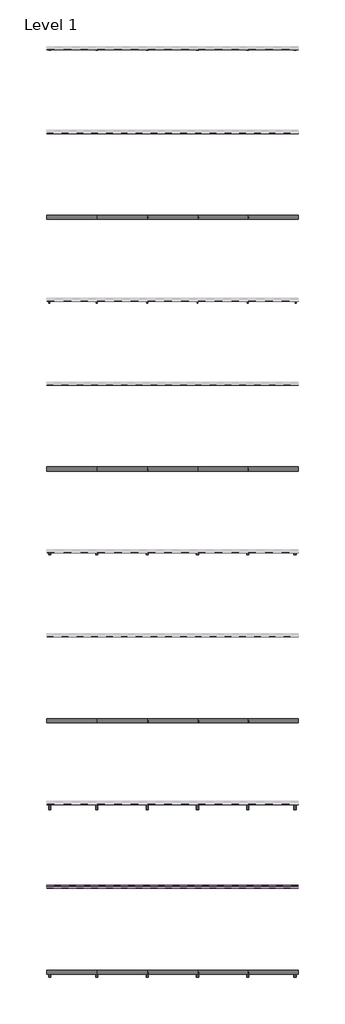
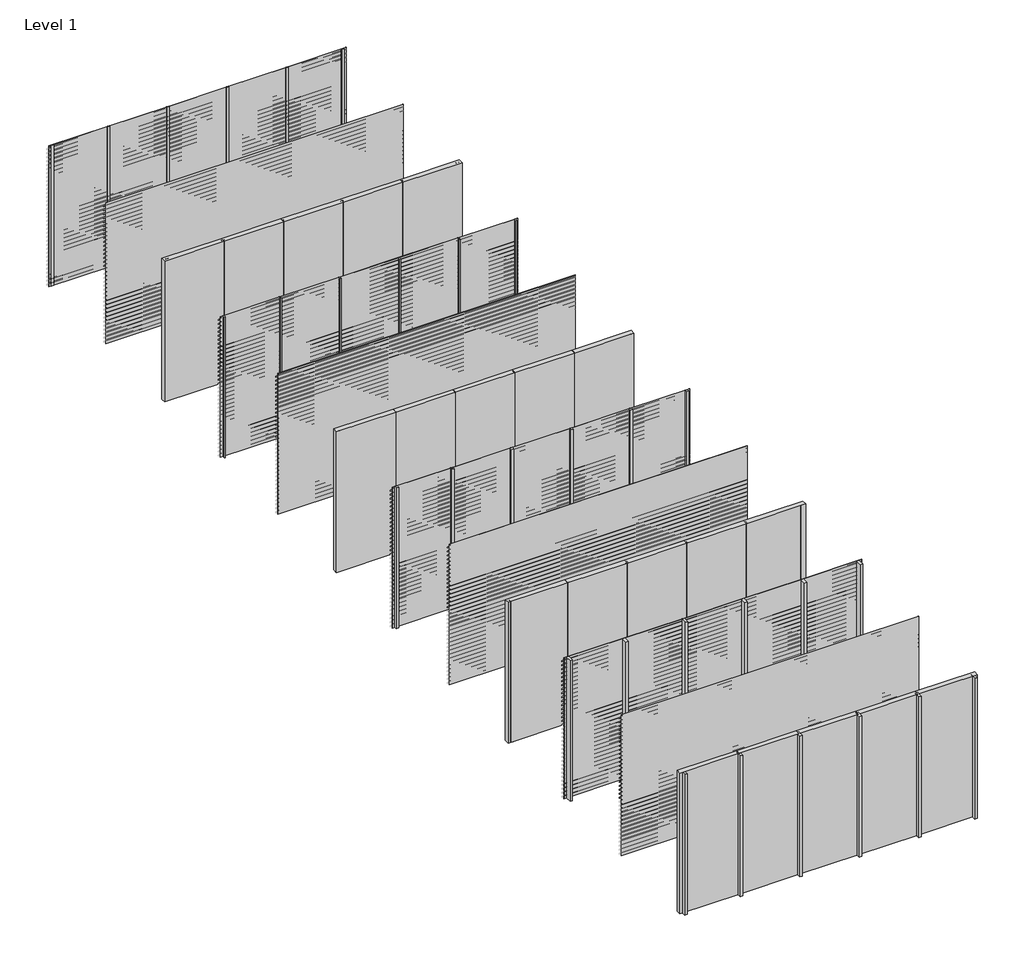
# One storey, part 1 of 10: 48 members, 44 plates, 21 proxies.
"""IFC4 building model written with IfcOpenShell, lengths in millimetres."""

from ifc_helpers import new_model, si_unit, frame, origin, origin_with_axes, place, context, project, spatial, polyline, outline, extrude, transform, mapped, element, save
from components import rectangular_mullion_bbbcbd30, rectangular_mullion_f8d4a220, rectangular_mullion_81aaf6fe, rectangular_mullion_6e08dc26, rectangular_mullion_75c52e10, rectangular_mullion_40295cf1, rectangular_mullion_7f158cb3, rectangular_mullion_66519e13, rectangular_mullion_5829b51c, rectangular_mullion_3b5b8a15, rectangular_mullion_81543344, rectangular_mullion_041a21c4, empty_system_panel_empty_50a928b3, empty_system_panel_empty_6b1ffbf5

model = new_model("IFC4")

# Units and contexts
model_context = context("Model", 3, world=origin())
ifc_project = project(units=[si_unit("LENGTHUNIT", "METRE", prefix="MILLI")], contexts=[model_context])

# Site, building, storey
site = spatial("IfcSite", under=ifc_project)
building = spatial("IfcBuilding", under=site)
storey = spatial("IfcBuildingStorey", under=building, Name="Level 1", Elevation=0.0)

# Proxies
placement = place(None, origin())
element("IfcBuildingElementProxy", 1, Name="Wall Sweeps", at=placement, inside=storey, context=model_context, shape_type="SweptSolid", body=[
    extrude(outline(polyline([(-19995.0, 2975.0), (-19995.0, 2962.0), (-19927.0, 2894.0), (-19927.0, 2876.0), (-19997.0, 2946.0), (-19997.0, 2975.0), (-19995.0, 2975.0)])), frame((0.0, 0.0, 0.0), z_axis=(1.0, 0.0, 0.0), x_axis=(0.0, 1.0, 0.0)), (0.0, 0.0, 1.0), 6000.0),
])
element("IfcBuildingElementProxy", 2, Name="Wall Sweeps", at=placement, inside=storey, context=model_context, shape_type="SweptSolid", body=[
    extrude(outline(polyline([(-19995.0, 2890.0), (-19995.0, 2877.0), (-19927.0, 2809.0), (-19927.0, 2791.0), (-19997.0, 2861.0), (-19997.0, 2890.0), (-19995.0, 2890.0)])), frame((0.0, 0.0, 0.0), z_axis=(1.0, 0.0, 0.0), x_axis=(0.0, 1.0, 0.0)), (0.0, 0.0, 1.0), 6000.0),
])
element("IfcBuildingElementProxy", 3, Name="Wall Sweeps", at=placement, inside=storey, context=model_context, shape_type="SweptSolid", body=[
    extrude(outline(polyline([(-19995.0, 2805.0), (-19995.0, 2792.0), (-19927.0, 2724.0), (-19927.0, 2706.0), (-19997.0, 2776.0), (-19997.0, 2805.0), (-19995.0, 2805.0)])), frame((0.0, 0.0, 0.0), z_axis=(1.0, 0.0, 0.0), x_axis=(0.0, 1.0, 0.0)), (0.0, 0.0, 1.0), 6000.0),
])
element("IfcBuildingElementProxy", 4, Name="Wall Sweeps", at=placement, inside=storey, context=model_context, shape_type="SweptSolid", body=[
    extrude(outline(polyline([(-19995.0, 2720.0), (-19995.0, 2707.0), (-19927.0, 2639.0), (-19927.0, 2621.0), (-19997.0, 2691.0), (-19997.0, 2720.0), (-19995.0, 2720.0)])), frame((0.0, 0.0, 0.0), z_axis=(1.0, 0.0, 0.0), x_axis=(0.0, 1.0, 0.0)), (0.0, 0.0, 1.0), 6000.0),
])
element("IfcBuildingElementProxy", 5, Name="Wall Sweeps", at=placement, inside=storey, context=model_context, shape_type="SweptSolid", body=[
    extrude(outline(polyline([(-19995.0, 2635.0), (-19995.0, 2622.0), (-19927.0, 2554.0), (-19927.0, 2536.0), (-19997.0, 2606.0), (-19997.0, 2635.0), (-19995.0, 2635.0)])), frame((0.0, 0.0, 0.0), z_axis=(1.0, 0.0, 0.0), x_axis=(0.0, 1.0, 0.0)), (0.0, 0.0, 1.0), 6000.0),
])
element("IfcBuildingElementProxy", 6, Name="Wall Sweeps", at=placement, inside=storey, context=model_context, shape_type="SweptSolid", body=[
    extrude(outline(polyline([(-19995.0, 2550.0), (-19995.0, 2537.0), (-19927.0, 2469.0), (-19927.0, 2451.0), (-19997.0, 2521.0), (-19997.0, 2550.0), (-19995.0, 2550.0)])), frame((0.0, 0.0, 0.0), z_axis=(1.0, 0.0, 0.0), x_axis=(0.0, 1.0, 0.0)), (0.0, 0.0, 1.0), 6000.0),
])
element("IfcBuildingElementProxy", 7, Name="Wall Sweeps", at=placement, inside=storey, context=model_context, shape_type="SweptSolid", body=[
    extrude(outline(polyline([(-19995.0, 2465.0), (-19995.0, 2452.0), (-19927.0, 2384.0), (-19927.0, 2366.0), (-19997.0, 2436.0), (-19997.0, 2465.0), (-19995.0, 2465.0)])), frame((0.0, 0.0, 0.0), z_axis=(1.0, 0.0, 0.0), x_axis=(0.0, 1.0, 0.0)), (0.0, 0.0, 1.0), 6000.0),
])
element("IfcBuildingElementProxy", 8, Name="Wall Sweeps", at=placement, inside=storey, context=model_context, shape_type="SweptSolid", body=[
    extrude(outline(polyline([(-19995.0, 2380.0), (-19995.0, 2367.0), (-19927.0, 2299.0), (-19927.0, 2281.0), (-19997.0, 2351.0), (-19997.0, 2380.0), (-19995.0, 2380.0)])), frame((0.0, 0.0, 0.0), z_axis=(1.0, 0.0, 0.0), x_axis=(0.0, 1.0, 0.0)), (0.0, 0.0, 1.0), 6000.0),
])
element("IfcBuildingElementProxy", 9, Name="Wall Sweeps", at=placement, inside=storey, context=model_context, shape_type="SweptSolid", body=[
    extrude(outline(polyline([(-19995.0, 2295.0), (-19995.0, 2282.0), (-19927.0, 2214.0), (-19927.0, 2196.0), (-19997.0, 2266.0), (-19997.0, 2295.0), (-19995.0, 2295.0)])), frame((0.0, 0.0, 0.0), z_axis=(1.0, 0.0, 0.0), x_axis=(0.0, 1.0, 0.0)), (0.0, 0.0, 1.0), 6000.0),
])
element("IfcBuildingElementProxy", 10, Name="Wall Sweeps", at=placement, inside=storey, context=model_context, shape_type="SweptSolid", body=[
    extrude(outline(polyline([(-19995.0, 2210.0), (-19995.0, 2197.0), (-19927.0, 2129.0), (-19927.0, 2111.0), (-19997.0, 2181.0), (-19997.0, 2210.0), (-19995.0, 2210.0)])), frame((0.0, 0.0, 0.0), z_axis=(1.0, 0.0, 0.0), x_axis=(0.0, 1.0, 0.0)), (0.0, 0.0, 1.0), 6000.0),
])
element("IfcBuildingElementProxy", 11, Name="Wall Sweeps", at=placement, inside=storey, context=model_context, shape_type="SweptSolid", body=[
    extrude(outline(polyline([(-19995.0, 2125.0), (-19995.0, 2112.0), (-19927.0, 2044.0), (-19927.0, 2026.0), (-19997.0, 2096.0), (-19997.0, 2125.0), (-19995.0, 2125.0)])), frame((0.0, 0.0, 0.0), z_axis=(1.0, 0.0, 0.0), x_axis=(0.0, 1.0, 0.0)), (0.0, 0.0, 1.0), 6000.0),
])
element("IfcBuildingElementProxy", 12, Name="Wall Sweeps", at=placement, inside=storey, context=model_context, shape_type="SweptSolid", body=[
    extrude(outline(polyline([(-19995.0, 2040.0), (-19995.0, 2027.0), (-19927.0, 1959.0), (-19927.0, 1941.0), (-19997.0, 2011.0), (-19997.0, 2040.0), (-19995.0, 2040.0)])), frame((0.0, 0.0, 0.0), z_axis=(1.0, 0.0, 0.0), x_axis=(0.0, 1.0, 0.0)), (0.0, 0.0, 1.0), 6000.0),
])
element("IfcBuildingElementProxy", 13, Name="Wall Sweeps", at=placement, inside=storey, context=model_context, shape_type="SweptSolid", body=[
    extrude(outline(polyline([(-19995.0, 1955.0), (-19995.0, 1942.0), (-19927.0, 1874.0), (-19927.0, 1856.0), (-19997.0, 1926.0), (-19997.0, 1955.0), (-19995.0, 1955.0)])), frame((0.0, 0.0, 0.0), z_axis=(1.0, 0.0, 0.0), x_axis=(0.0, 1.0, 0.0)), (0.0, 0.0, 1.0), 6000.0),
])
element("IfcBuildingElementProxy", 14, Name="Wall Sweeps", at=placement, inside=storey, context=model_context, shape_type="SweptSolid", body=[
    extrude(outline(polyline([(-19995.0, 1870.0), (-19995.0, 1857.0), (-19927.0, 1789.0), (-19927.0, 1771.0), (-19997.0, 1841.0), (-19997.0, 1870.0), (-19995.0, 1870.0)])), frame((0.0, 0.0, 0.0), z_axis=(1.0, 0.0, 0.0), x_axis=(0.0, 1.0, 0.0)), (0.0, 0.0, 1.0), 6000.0),
])
element("IfcBuildingElementProxy", 15, Name="Wall Sweeps", at=placement, inside=storey, context=model_context, shape_type="SweptSolid", body=[
    extrude(outline(polyline([(-19995.0, 1785.0), (-19995.0, 1772.0), (-19927.0, 1704.0), (-19927.0, 1686.0), (-19997.0, 1756.0), (-19997.0, 1785.0), (-19995.0, 1785.0)])), frame((0.0, 0.0, 0.0), z_axis=(1.0, 0.0, 0.0), x_axis=(0.0, 1.0, 0.0)), (0.0, 0.0, 1.0), 6000.0),
])
element("IfcBuildingElementProxy", 16, Name="Wall Sweeps", at=placement, inside=storey, context=model_context, shape_type="SweptSolid", body=[
    extrude(outline(polyline([(-19995.0, 1700.0), (-19995.0, 1687.0), (-19927.0, 1619.0), (-19927.0, 1601.0), (-19997.0, 1671.0), (-19997.0, 1700.0), (-19995.0, 1700.0)])), frame((0.0, 0.0, 0.0), z_axis=(1.0, 0.0, 0.0), x_axis=(0.0, 1.0, 0.0)), (0.0, 0.0, 1.0), 6000.0),
])
element("IfcBuildingElementProxy", 17, Name="Wall Sweeps", at=placement, inside=storey, context=model_context, shape_type="SweptSolid", body=[
    extrude(outline(polyline([(-19995.0, 1615.0), (-19995.0, 1602.0), (-19927.0, 1534.0), (-19927.0, 1516.0), (-19997.0, 1586.0), (-19997.0, 1615.0), (-19995.0, 1615.0)])), frame((0.0, 0.0, 0.0), z_axis=(1.0, 0.0, 0.0), x_axis=(0.0, 1.0, 0.0)), (0.0, 0.0, 1.0), 6000.0),
])
element("IfcBuildingElementProxy", 18, Name="Wall Sweeps", at=placement, inside=storey, context=model_context, shape_type="SweptSolid", body=[
    extrude(outline(polyline([(-19995.0, 1530.0), (-19995.0, 1517.0), (-19927.0, 1449.0), (-19927.0, 1431.0), (-19997.0, 1501.0), (-19997.0, 1530.0), (-19995.0, 1530.0)])), frame((0.0, 0.0, 0.0), z_axis=(1.0, 0.0, 0.0), x_axis=(0.0, 1.0, 0.0)), (0.0, 0.0, 1.0), 6000.0),
])
element("IfcBuildingElementProxy", 19, Name="Wall Sweeps", at=placement, inside=storey, context=model_context, shape_type="SweptSolid", body=[
    extrude(outline(polyline([(-19995.0, 1445.0), (-19995.0, 1432.0), (-19927.0, 1364.0), (-19927.0, 1346.0), (-19997.0, 1416.0), (-19997.0, 1445.0), (-19995.0, 1445.0)])), frame((0.0, 0.0, 0.0), z_axis=(1.0, 0.0, 0.0), x_axis=(0.0, 1.0, 0.0)), (0.0, 0.0, 1.0), 6000.0),
])
element("IfcBuildingElementProxy", 20, Name="Wall Sweeps", at=placement, inside=storey, context=model_context, shape_type="SweptSolid", body=[
    extrude(outline(polyline([(-19995.0, 1360.0), (-19995.0, 1347.0), (-19927.0, 1279.0), (-19927.0, 1261.0), (-19997.0, 1331.0), (-19997.0, 1360.0), (-19995.0, 1360.0)])), frame((0.0, 0.0, 0.0), z_axis=(1.0, 0.0, 0.0), x_axis=(0.0, 1.0, 0.0)), (0.0, 0.0, 1.0), 6000.0),
])
element("IfcBuildingElementProxy", 21, Name="Wall Sweeps", at=placement, inside=storey, context=model_context, shape_type="SweptSolid", body=[
    extrude(outline(polyline([(-19995.0, 1275.0), (-19995.0, 1262.0), (-19927.0, 1194.0), (-19927.0, 1176.0), (-19997.0, 1246.0), (-19997.0, 1275.0), (-19995.0, 1275.0)])), frame((0.0, 0.0, 0.0), z_axis=(1.0, 0.0, 0.0), x_axis=(0.0, 1.0, 0.0)), (0.0, 0.0, 1.0), 6000.0),
])

# Members
rectangular_mullion_shape = rectangular_mullion_bbbcbd30(model_context)
element("IfcMember", 22, ObjectType="Rectangular Mullion : RSen_21_CWM_support profile - 50x12 - left_gen_duco projects", at=placement, inside=storey, context=model_context, shape_type="MappedRepresentation", body=[
    mapped(rectangular_mullion_shape, transform((0.0, 0.0, 0.0), x_axis=(-1.0, 0.0, 0.0), y_axis=(0.0, 1.0, 0.0), z_axis=(0.0, 0.0, -1.0))),
])
element("IfcMember", 23, ObjectType="Rectangular Mullion : RSen_21_CWM_support profile - 50x12 - left_gen_duco projects", at=placement, inside=storey, context=model_context, shape_type="MappedRepresentation", body=[
    mapped(rectangular_mullion_shape, transform((0.0, -4000.0, 0.0), x_axis=(-1.0, 0.0, 0.0), y_axis=(0.0, 1.0, 0.0), z_axis=(0.0, 0.0, -1.0))),
])
rectangular_mullion_2_shape = rectangular_mullion_f8d4a220(model_context)
element("IfcMember", 24, ObjectType="Rectangular Mullion : RSen_21_CWM_support profile - 50x12 - right_gen_duco projects", at=placement, inside=storey, context=model_context, shape_type="MappedRepresentation", body=[
    mapped(rectangular_mullion_2_shape, transform((6000.0, 0.0, 3000.0), x_axis=(1.0, 0.0, 0.0), y_axis=(0.0, 1.0, 0.0), z_axis=(0.0, 0.0, 1.0))),
])
element("IfcMember", 25, ObjectType="Rectangular Mullion : RSen_21_CWM_support profile - 50x12 - right_gen_duco projects", at=placement, inside=storey, context=model_context, shape_type="MappedRepresentation", body=[
    mapped(rectangular_mullion_2_shape, transform((6000.0, -4000.0, 3000.0), x_axis=(1.0, 0.0, 0.0), y_axis=(0.0, 1.0, 0.0), z_axis=(0.0, 0.0, 1.0))),
])
rectangular_mullion_3_shape = rectangular_mullion_81aaf6fe(model_context)
element("IfcMember", 26, ObjectType="Rectangular Mullion : RSen_21_CWM_support profile - 21x50 Multi - left_gen_duco projects", at=placement, inside=storey, context=model_context, shape_type="MappedRepresentation", body=[
    mapped(rectangular_mullion_3_shape, transform((0.0, -6000.0, 0.0), x_axis=(-1.0, 0.0, 0.0), y_axis=(0.0, 1.0, 0.0), z_axis=(0.0, 0.0, -1.0))),
])
element("IfcMember", 27, ObjectType="Rectangular Mullion : RSen_21_CWM_support profile - 21x50 Multi - left_gen_duco projects", at=placement, inside=storey, context=model_context, shape_type="MappedRepresentation", body=[
    mapped(rectangular_mullion_3_shape, transform((0.0, -10000.0, 0.0), x_axis=(-1.0, 0.0, 0.0), y_axis=(0.0, 1.0, 0.0), z_axis=(0.0, 0.0, -1.0))),
])
rectangular_mullion_4_shape = rectangular_mullion_6e08dc26(model_context)
element("IfcMember", 28, ObjectType="Rectangular Mullion : RSen_21_CWM_support profile - 21x50 Multi - right_gen_duco projects", at=placement, inside=storey, context=model_context, shape_type="MappedRepresentation", body=[
    mapped(rectangular_mullion_4_shape, transform((6000.0, -6000.0, 3000.0), x_axis=(1.0, 0.0, 0.0), y_axis=(0.0, 1.0, 0.0), z_axis=(0.0, 0.0, 1.0))),
])
element("IfcMember", 29, ObjectType="Rectangular Mullion : RSen_21_CWM_support profile - 21x50 Multi - right_gen_duco projects", at=placement, inside=storey, context=model_context, shape_type="MappedRepresentation", body=[
    mapped(rectangular_mullion_4_shape, transform((6000.0, -10000.0, 3000.0), x_axis=(1.0, 0.0, 0.0), y_axis=(0.0, 1.0, 0.0), z_axis=(0.0, 0.0, 1.0))),
])
rectangular_mullion_5_shape = rectangular_mullion_75c52e10(model_context)
element("IfcMember", 30, ObjectType="Rectangular Mullion : RSen_21_CWM_support profile - 50x50 - left_gen_duco projects", at=placement, inside=storey, context=model_context, shape_type="MappedRepresentation", body=[
    mapped(rectangular_mullion_5_shape, transform((0.0, -12000.0, 0.0), x_axis=(-1.0, 0.0, 0.0), y_axis=(0.0, 1.0, 0.0), z_axis=(0.0, 0.0, -1.0))),
])
element("IfcMember", 31, ObjectType="Rectangular Mullion : RSen_21_CWM_support profile - 50x50 - left_gen_duco projects", at=placement, inside=storey, context=model_context, shape_type="MappedRepresentation", body=[
    mapped(rectangular_mullion_5_shape, transform((0.0, -16000.0, 0.0), x_axis=(-1.0, 0.0, 0.0), y_axis=(0.0, 1.0, 0.0), z_axis=(0.0, 0.0, -1.0))),
])
rectangular_mullion_6_shape = rectangular_mullion_40295cf1(model_context)
element("IfcMember", 32, ObjectType="Rectangular Mullion : RSen_21_CWM_support profile - 50x50 - right_gen_duco projects", at=placement, inside=storey, context=model_context, shape_type="MappedRepresentation", body=[
    mapped(rectangular_mullion_6_shape, transform((6000.0, -12000.0, 3000.0), x_axis=(1.0, 0.0, 0.0), y_axis=(0.0, 1.0, 0.0), z_axis=(0.0, 0.0, 1.0))),
])
element("IfcMember", 33, ObjectType="Rectangular Mullion : RSen_21_CWM_support profile - 50x50 - right_gen_duco projects", at=placement, inside=storey, context=model_context, shape_type="MappedRepresentation", body=[
    mapped(rectangular_mullion_6_shape, transform((6000.0, -16000.0, 3000.0), x_axis=(1.0, 0.0, 0.0), y_axis=(0.0, 1.0, 0.0), z_axis=(0.0, 0.0, 1.0))),
])
rectangular_mullion_7_shape = rectangular_mullion_7f158cb3(model_context)
element("IfcMember", 34, ObjectType="Rectangular Mullion : RSen_21_CWM_support profile - 50x12_gen_duco projects", at=placement, inside=storey, context=model_context, shape_type="MappedRepresentation", body=[
    mapped(rectangular_mullion_7_shape, transform((4800.0, 0.0, 0.0), x_axis=(-1.0, 0.0, 0.0), y_axis=(0.0, 1.0, 0.0), z_axis=(0.0, 0.0, -1.0))),
])
element("IfcMember", 35, ObjectType="Rectangular Mullion : RSen_21_CWM_support profile - 50x12_gen_duco projects", at=placement, inside=storey, context=model_context, shape_type="MappedRepresentation", body=[
    mapped(rectangular_mullion_7_shape, transform((3600.0, 0.0, 0.0), x_axis=(-1.0, 0.0, 0.0), y_axis=(0.0, 1.0, 0.0), z_axis=(0.0, 0.0, -1.0))),
])
element("IfcMember", 36, ObjectType="Rectangular Mullion : RSen_21_CWM_support profile - 50x12_gen_duco projects", at=placement, inside=storey, context=model_context, shape_type="MappedRepresentation", body=[
    mapped(rectangular_mullion_7_shape, transform((2400.0, 0.0, 0.0), x_axis=(-1.0, 0.0, 0.0), y_axis=(0.0, 1.0, 0.0), z_axis=(0.0, 0.0, -1.0))),
])
element("IfcMember", 37, ObjectType="Rectangular Mullion : RSen_21_CWM_support profile - 50x12_gen_duco projects", at=placement, inside=storey, context=model_context, shape_type="MappedRepresentation", body=[
    mapped(rectangular_mullion_7_shape, transform((1200.0, 0.0, 0.0), x_axis=(-1.0, 0.0, 0.0), y_axis=(0.0, 1.0, 0.0), z_axis=(0.0, 0.0, -1.0))),
])
element("IfcMember", 38, ObjectType="Rectangular Mullion : RSen_21_CWM_support profile - 50x12_gen_duco projects", at=placement, inside=storey, context=model_context, shape_type="MappedRepresentation", body=[
    mapped(rectangular_mullion_7_shape, transform((4800.0, -4000.0, 0.0), x_axis=(-1.0, 0.0, 0.0), y_axis=(0.0, 1.0, 0.0), z_axis=(0.0, 0.0, -1.0))),
])
element("IfcMember", 39, ObjectType="Rectangular Mullion : RSen_21_CWM_support profile - 50x12_gen_duco projects", at=placement, inside=storey, context=model_context, shape_type="MappedRepresentation", body=[
    mapped(rectangular_mullion_7_shape, transform((3600.0, -4000.0, 0.0), x_axis=(-1.0, 0.0, 0.0), y_axis=(0.0, 1.0, 0.0), z_axis=(0.0, 0.0, -1.0))),
])
element("IfcMember", 40, ObjectType="Rectangular Mullion : RSen_21_CWM_support profile - 50x12_gen_duco projects", at=placement, inside=storey, context=model_context, shape_type="MappedRepresentation", body=[
    mapped(rectangular_mullion_7_shape, transform((2400.0, -4000.0, 0.0), x_axis=(-1.0, 0.0, 0.0), y_axis=(0.0, 1.0, 0.0), z_axis=(0.0, 0.0, -1.0))),
])
element("IfcMember", 41, ObjectType="Rectangular Mullion : RSen_21_CWM_support profile - 50x12_gen_duco projects", at=placement, inside=storey, context=model_context, shape_type="MappedRepresentation", body=[
    mapped(rectangular_mullion_7_shape, transform((1200.0, -4000.0, 0.0), x_axis=(-1.0, 0.0, 0.0), y_axis=(0.0, 1.0, 0.0), z_axis=(0.0, 0.0, -1.0))),
])
rectangular_mullion_8_shape = rectangular_mullion_66519e13(model_context)
element("IfcMember", 42, ObjectType="Rectangular Mullion : RSen_21_CWM_support profile - 21x50 Multi_gen_duco projects", at=placement, inside=storey, context=model_context, shape_type="MappedRepresentation", body=[
    mapped(rectangular_mullion_8_shape, transform((4800.0, -6000.0, 0.0), x_axis=(-1.0, 0.0, 0.0), y_axis=(0.0, 1.0, 0.0), z_axis=(0.0, 0.0, -1.0))),
])
element("IfcMember", 43, ObjectType="Rectangular Mullion : RSen_21_CWM_support profile - 21x50 Multi_gen_duco projects", at=placement, inside=storey, context=model_context, shape_type="MappedRepresentation", body=[
    mapped(rectangular_mullion_8_shape, transform((3600.0, -6000.0, 0.0), x_axis=(-1.0, 0.0, 0.0), y_axis=(0.0, 1.0, 0.0), z_axis=(0.0, 0.0, -1.0))),
])
element("IfcMember", 44, ObjectType="Rectangular Mullion : RSen_21_CWM_support profile - 21x50 Multi_gen_duco projects", at=placement, inside=storey, context=model_context, shape_type="MappedRepresentation", body=[
    mapped(rectangular_mullion_8_shape, transform((2400.0, -6000.0, 0.0), x_axis=(-1.0, 0.0, 0.0), y_axis=(0.0, 1.0, 0.0), z_axis=(0.0, 0.0, -1.0))),
])
element("IfcMember", 45, ObjectType="Rectangular Mullion : RSen_21_CWM_support profile - 21x50 Multi_gen_duco projects", at=placement, inside=storey, context=model_context, shape_type="MappedRepresentation", body=[
    mapped(rectangular_mullion_8_shape, transform((1200.0, -6000.0, 0.0), x_axis=(-1.0, 0.0, 0.0), y_axis=(0.0, 1.0, 0.0), z_axis=(0.0, 0.0, -1.0))),
])
element("IfcMember", 46, ObjectType="Rectangular Mullion : RSen_21_CWM_support profile - 21x50 Multi_gen_duco projects", at=placement, inside=storey, context=model_context, shape_type="MappedRepresentation", body=[
    mapped(rectangular_mullion_8_shape, transform((4800.0, -10000.0, 0.0), x_axis=(-1.0, 0.0, 0.0), y_axis=(0.0, 1.0, 0.0), z_axis=(0.0, 0.0, -1.0))),
])
element("IfcMember", 47, ObjectType="Rectangular Mullion : RSen_21_CWM_support profile - 21x50 Multi_gen_duco projects", at=placement, inside=storey, context=model_context, shape_type="MappedRepresentation", body=[
    mapped(rectangular_mullion_8_shape, transform((3600.0, -10000.0, 0.0), x_axis=(-1.0, 0.0, 0.0), y_axis=(0.0, 1.0, 0.0), z_axis=(0.0, 0.0, -1.0))),
])
element("IfcMember", 48, ObjectType="Rectangular Mullion : RSen_21_CWM_support profile - 21x50 Multi_gen_duco projects", at=placement, inside=storey, context=model_context, shape_type="MappedRepresentation", body=[
    mapped(rectangular_mullion_8_shape, transform((2400.0, -10000.0, 0.0), x_axis=(-1.0, 0.0, 0.0), y_axis=(0.0, 1.0, 0.0), z_axis=(0.0, 0.0, -1.0))),
])
element("IfcMember", 49, ObjectType="Rectangular Mullion : RSen_21_CWM_support profile - 21x50 Multi_gen_duco projects", at=placement, inside=storey, context=model_context, shape_type="MappedRepresentation", body=[
    mapped(rectangular_mullion_8_shape, transform((1200.0, -10000.0, 0.0), x_axis=(-1.0, 0.0, 0.0), y_axis=(0.0, 1.0, 0.0), z_axis=(0.0, 0.0, -1.0))),
])
rectangular_mullion_9_shape = rectangular_mullion_5829b51c(model_context)
element("IfcMember", 50, ObjectType="Rectangular Mullion : RSen_21_CWM_support profile - 50x50_gen_duco projects", at=placement, inside=storey, context=model_context, shape_type="MappedRepresentation", body=[
    mapped(rectangular_mullion_9_shape, transform((4800.0, -12000.0, 0.0), x_axis=(-1.0, 0.0, 0.0), y_axis=(0.0, 1.0, 0.0), z_axis=(0.0, 0.0, -1.0))),
])
element("IfcMember", 51, ObjectType="Rectangular Mullion : RSen_21_CWM_support profile - 50x50_gen_duco projects", at=placement, inside=storey, context=model_context, shape_type="MappedRepresentation", body=[
    mapped(rectangular_mullion_9_shape, transform((3600.0, -12000.0, 0.0), x_axis=(-1.0, 0.0, 0.0), y_axis=(0.0, 1.0, 0.0), z_axis=(0.0, 0.0, -1.0))),
])
element("IfcMember", 52, ObjectType="Rectangular Mullion : RSen_21_CWM_support profile - 50x50_gen_duco projects", at=placement, inside=storey, context=model_context, shape_type="MappedRepresentation", body=[
    mapped(rectangular_mullion_9_shape, transform((2400.0, -12000.0, 0.0), x_axis=(-1.0, 0.0, 0.0), y_axis=(0.0, 1.0, 0.0), z_axis=(0.0, 0.0, -1.0))),
])
element("IfcMember", 53, ObjectType="Rectangular Mullion : RSen_21_CWM_support profile - 50x50_gen_duco projects", at=placement, inside=storey, context=model_context, shape_type="MappedRepresentation", body=[
    mapped(rectangular_mullion_9_shape, transform((1200.0, -12000.0, 0.0), x_axis=(-1.0, 0.0, 0.0), y_axis=(0.0, 1.0, 0.0), z_axis=(0.0, 0.0, -1.0))),
])
element("IfcMember", 54, ObjectType="Rectangular Mullion : RSen_21_CWM_support profile - 50x50_gen_duco projects", at=placement, inside=storey, context=model_context, shape_type="MappedRepresentation", body=[
    mapped(rectangular_mullion_9_shape, transform((4800.0, -16000.0, 0.0), x_axis=(-1.0, 0.0, 0.0), y_axis=(0.0, 1.0, 0.0), z_axis=(0.0, 0.0, -1.0))),
])
element("IfcMember", 55, ObjectType="Rectangular Mullion : RSen_21_CWM_support profile - 50x50_gen_duco projects", at=placement, inside=storey, context=model_context, shape_type="MappedRepresentation", body=[
    mapped(rectangular_mullion_9_shape, transform((3600.0, -16000.0, 0.0), x_axis=(-1.0, 0.0, 0.0), y_axis=(0.0, 1.0, 0.0), z_axis=(0.0, 0.0, -1.0))),
])
element("IfcMember", 56, ObjectType="Rectangular Mullion : RSen_21_CWM_support profile - 50x50_gen_duco projects", at=placement, inside=storey, context=model_context, shape_type="MappedRepresentation", body=[
    mapped(rectangular_mullion_9_shape, transform((2400.0, -16000.0, 0.0), x_axis=(-1.0, 0.0, 0.0), y_axis=(0.0, 1.0, 0.0), z_axis=(0.0, 0.0, -1.0))),
])
element("IfcMember", 57, ObjectType="Rectangular Mullion : RSen_21_CWM_support profile - 50x50_gen_duco projects", at=placement, inside=storey, context=model_context, shape_type="MappedRepresentation", body=[
    mapped(rectangular_mullion_9_shape, transform((1200.0, -16000.0, 0.0), x_axis=(-1.0, 0.0, 0.0), y_axis=(0.0, 1.0, 0.0), z_axis=(0.0, 0.0, -1.0))),
])
rectangular_mullion_10_shape = rectangular_mullion_3b5b8a15(model_context)
element("IfcMember", 58, ObjectType="Rectangular Mullion : RSen_21_CWM_support profile - 50x125_gen_duco projects", at=placement, inside=storey, context=model_context, shape_type="MappedRepresentation", body=[
    mapped(rectangular_mullion_10_shape, transform((1200.0000002, -18000.0, 0.0), x_axis=(1.0, 0.0, 0.0), y_axis=(0.0, -1.0, 0.0), z_axis=(0.0, 0.0, -1.0))),
])
element("IfcMember", 59, ObjectType="Rectangular Mullion : RSen_21_CWM_support profile - 50x125_gen_duco projects", at=placement, inside=storey, context=model_context, shape_type="MappedRepresentation", body=[
    mapped(rectangular_mullion_10_shape, transform((2400.0000001, -18000.0, 0.0), x_axis=(1.0, 0.0, 0.0), y_axis=(0.0, -1.0, 0.0), z_axis=(0.0, 0.0, -1.0))),
])
element("IfcMember", 60, ObjectType="Rectangular Mullion : RSen_21_CWM_support profile - 50x125_gen_duco projects", at=placement, inside=storey, context=model_context, shape_type="MappedRepresentation", body=[
    mapped(rectangular_mullion_10_shape, transform((3599.9999999, -18000.0, 0.0), x_axis=(1.0, 0.0, 0.0), y_axis=(0.0, -1.0, 0.0), z_axis=(0.0, 0.0, -1.0))),
])
element("IfcMember", 61, ObjectType="Rectangular Mullion : RSen_21_CWM_support profile - 50x125_gen_duco projects", at=placement, inside=storey, context=model_context, shape_type="MappedRepresentation", body=[
    mapped(rectangular_mullion_10_shape, transform((4799.9999998, -18000.0, 0.0), x_axis=(1.0, 0.0, 0.0), y_axis=(0.0, -1.0, 0.0), z_axis=(0.0, 0.0, -1.0))),
])
element("IfcMember", 62, ObjectType="Rectangular Mullion : RSen_21_CWM_support profile - 50x125_gen_duco projects", at=placement, inside=storey, context=model_context, shape_type="MappedRepresentation", body=[
    mapped(rectangular_mullion_10_shape, transform((1200.0000002, -22000.0, 0.0), x_axis=(1.0, 0.0, 0.0), y_axis=(0.0, -1.0, 0.0), z_axis=(0.0, 0.0, -1.0))),
])
element("IfcMember", 63, ObjectType="Rectangular Mullion : RSen_21_CWM_support profile - 50x125_gen_duco projects", at=placement, inside=storey, context=model_context, shape_type="MappedRepresentation", body=[
    mapped(rectangular_mullion_10_shape, transform((2400.0000001, -22000.0, 0.0), x_axis=(1.0, 0.0, 0.0), y_axis=(0.0, -1.0, 0.0), z_axis=(0.0, 0.0, -1.0))),
])
element("IfcMember", 64, ObjectType="Rectangular Mullion : RSen_21_CWM_support profile - 50x125_gen_duco projects", at=placement, inside=storey, context=model_context, shape_type="MappedRepresentation", body=[
    mapped(rectangular_mullion_10_shape, transform((3599.9999999, -22000.0, 0.0), x_axis=(1.0, 0.0, 0.0), y_axis=(0.0, -1.0, 0.0), z_axis=(0.0, 0.0, -1.0))),
])
element("IfcMember", 65, ObjectType="Rectangular Mullion : RSen_21_CWM_support profile - 50x125_gen_duco projects", at=placement, inside=storey, context=model_context, shape_type="MappedRepresentation", body=[
    mapped(rectangular_mullion_10_shape, transform((4799.9999998, -22000.0, 0.0), x_axis=(1.0, 0.0, 0.0), y_axis=(0.0, -1.0, 0.0), z_axis=(0.0, 0.0, -1.0))),
])
rectangular_mullion_11_shape = rectangular_mullion_81543344(model_context)
element("IfcMember", 66, ObjectType="Rectangular Mullion : RSen_21_CWM_support profile - 50x125 - left_gen_duco projects", at=placement, inside=storey, context=model_context, shape_type="MappedRepresentation", body=[
    mapped(rectangular_mullion_11_shape, transform((6000.0, -18000.0, 0.0), x_axis=(1.0, 0.0, 0.0), y_axis=(0.0, -1.0, 0.0), z_axis=(0.0, 0.0, -1.0))),
])
element("IfcMember", 67, ObjectType="Rectangular Mullion : RSen_21_CWM_support profile - 50x125 - left_gen_duco projects", at=placement, inside=storey, context=model_context, shape_type="MappedRepresentation", body=[
    mapped(rectangular_mullion_11_shape, transform((6000.0, -22000.0, 0.0), x_axis=(1.0, 0.0, 0.0), y_axis=(0.0, -1.0, 0.0), z_axis=(0.0, 0.0, -1.0))),
])
rectangular_mullion_12_shape = rectangular_mullion_041a21c4(model_context)
element("IfcMember", 68, ObjectType="Rectangular Mullion : RSen_21_CWM_support profile - 50x125 - right_gen_duco projects", at=placement, inside=storey, context=model_context, shape_type="MappedRepresentation", body=[
    mapped(rectangular_mullion_12_shape, transform((0.0, -18000.0, 3000.0), x_axis=(-1.0, 0.0, 0.0), y_axis=(0.0, -1.0, 0.0), z_axis=(0.0, 0.0, 1.0))),
])
element("IfcMember", 69, ObjectType="Rectangular Mullion : RSen_21_CWM_support profile - 50x125 - right_gen_duco projects", at=placement, inside=storey, context=model_context, shape_type="MappedRepresentation", body=[
    mapped(rectangular_mullion_12_shape, transform((0.0, -22000.0, 3000.0), x_axis=(-1.0, 0.0, 0.0), y_axis=(0.0, -1.0, 0.0), z_axis=(0.0, 0.0, 1.0))),
])

# Plates
element("IfcPlate", 70, ObjectType="RSen_21_WA_louvre blade classic W 70S_gen_duco projects", at=placement, inside=storey, context=model_context, shape_type="SweptSolid", body=[
    extrude(outline(polyline([(0.0, 1.0), (1200.0, 1.0), (1200.0, -1.0), (0.0, -1.0), (0.0, 1.0)])), origin_with_axes(), (0.0, 0.0, 1.0), 3000.0),
])
element("IfcPlate", 71, ObjectType="RSen_21_WA_louvre blade classic W 70S_gen_duco projects", at=placement, inside=storey, context=model_context, shape_type="SweptSolid", body=[
    extrude(outline(polyline([(1200.0, 1.0), (2400.0, 1.0), (2400.0, -1.0), (1200.0, -1.0), (1200.0, 1.0)])), origin_with_axes(), (0.0, 0.0, 1.0), 3000.0),
])
element("IfcPlate", 72, ObjectType="RSen_21_WA_louvre blade classic W 70S_gen_duco projects", at=placement, inside=storey, context=model_context, shape_type="SweptSolid", body=[
    extrude(outline(polyline([(2400.0, 1.0), (3600.0, 1.0), (3600.0, -1.0), (2400.0, -1.0), (2400.0, 1.0)])), origin_with_axes(), (0.0, 0.0, 1.0), 3000.0),
])
element("IfcPlate", 73, ObjectType="RSen_21_WA_louvre blade classic W 70S_gen_duco projects", at=placement, inside=storey, context=model_context, shape_type="SweptSolid", body=[
    extrude(outline(polyline([(3600.0, 1.0), (4800.0, 1.0), (4800.0, -1.0), (3600.0, -1.0), (3600.0, 1.0)])), origin_with_axes(), (0.0, 0.0, 1.0), 3000.0),
])
element("IfcPlate", 74, ObjectType="RSen_21_WA_louvre blade classic W 70S_gen_duco projects", at=placement, inside=storey, context=model_context, shape_type="SweptSolid", body=[
    extrude(outline(polyline([(4800.0, 1.0), (6000.0, 1.0), (6000.0, -1.0), (4800.0, -1.0), (4800.0, 1.0)])), origin_with_axes(), (0.0, 0.0, 1.0), 3000.0),
])
element("IfcPlate", 75, ObjectType="RSen_21_WA_louvre blade classic W 70S_gen_duco projects", at=placement, inside=storey, context=model_context, shape_type="SweptSolid", body=[
    extrude(outline(polyline([(0.0, -1999.0), (6000.0, -1999.0), (6000.0, -2001.0), (0.0, -2001.0), (0.0, -1999.0)])), origin_with_axes(), (0.0, 0.0, 1.0), 3000.0),
])
element("IfcPlate", 76, ObjectType="RSen_21_WA_louvre blade classic W 70S_gen_duco projects", at=placement, inside=storey, context=model_context, shape_type="SweptSolid", body=[
    extrude(outline(polyline([(0.0, -5999.0), (1200.0, -5999.0), (1200.0, -6001.0), (0.0, -6001.0), (0.0, -5999.0)])), origin_with_axes(), (0.0, 0.0, 1.0), 3000.0),
])
element("IfcPlate", 77, ObjectType="RSen_21_WA_louvre blade classic W 70S_gen_duco projects", at=placement, inside=storey, context=model_context, shape_type="SweptSolid", body=[
    extrude(outline(polyline([(1200.0, -5999.0), (2400.0, -5999.0), (2400.0, -6001.0), (1200.0, -6001.0), (1200.0, -5999.0)])), origin_with_axes(), (0.0, 0.0, 1.0), 3000.0),
])
element("IfcPlate", 78, ObjectType="RSen_21_WA_louvre blade classic W 70S_gen_duco projects", at=placement, inside=storey, context=model_context, shape_type="SweptSolid", body=[
    extrude(outline(polyline([(2400.0, -5999.0), (3600.0, -5999.0), (3600.0, -6001.0), (2400.0, -6001.0), (2400.0, -5999.0)])), origin_with_axes(), (0.0, 0.0, 1.0), 3000.0),
])
element("IfcPlate", 79, ObjectType="RSen_21_WA_louvre blade classic W 70S_gen_duco projects", at=placement, inside=storey, context=model_context, shape_type="SweptSolid", body=[
    extrude(outline(polyline([(3600.0, -5999.0), (4800.0, -5999.0), (4800.0, -6001.0), (3600.0, -6001.0), (3600.0, -5999.0)])), origin_with_axes(), (0.0, 0.0, 1.0), 3000.0),
])
element("IfcPlate", 80, ObjectType="RSen_21_WA_louvre blade classic W 70S_gen_duco projects", at=placement, inside=storey, context=model_context, shape_type="SweptSolid", body=[
    extrude(outline(polyline([(4800.0, -5999.0), (6000.0, -5999.0), (6000.0, -6001.0), (4800.0, -6001.0), (4800.0, -5999.0)])), origin_with_axes(), (0.0, 0.0, 1.0), 3000.0),
])
element("IfcPlate", 81, ObjectType="RSen_21_WA_louvre blade classic W 70S_gen_duco projects", at=placement, inside=storey, context=model_context, shape_type="SweptSolid", body=[
    extrude(outline(polyline([(0.0, -7999.0), (6000.0, -7999.0), (6000.0, -8001.0), (0.0, -8001.0), (0.0, -7999.0)])), origin_with_axes(), (0.0, 0.0, 1.0), 3000.0),
])
element("IfcPlate", 82, ObjectType="RSen_21_WA_louvre blade classic W 70S_gen_duco projects", at=placement, inside=storey, context=model_context, shape_type="SweptSolid", body=[
    extrude(outline(polyline([(0.0, -11999.0), (1200.0, -11999.0), (1200.0, -12001.0), (0.0, -12001.0), (0.0, -11999.0)])), origin_with_axes(), (0.0, 0.0, 1.0), 3000.0),
])
element("IfcPlate", 83, ObjectType="RSen_21_WA_louvre blade classic W 70S_gen_duco projects", at=placement, inside=storey, context=model_context, shape_type="SweptSolid", body=[
    extrude(outline(polyline([(1200.0, -11999.0), (2400.0, -11999.0), (2400.0, -12001.0), (1200.0, -12001.0), (1200.0, -11999.0)])), origin_with_axes(), (0.0, 0.0, 1.0), 3000.0),
])
element("IfcPlate", 84, ObjectType="RSen_21_WA_louvre blade classic W 70S_gen_duco projects", at=placement, inside=storey, context=model_context, shape_type="SweptSolid", body=[
    extrude(outline(polyline([(2400.0, -11999.0), (3600.0, -11999.0), (3600.0, -12001.0), (2400.0, -12001.0), (2400.0, -11999.0)])), origin_with_axes(), (0.0, 0.0, 1.0), 3000.0),
])
element("IfcPlate", 85, ObjectType="RSen_21_WA_louvre blade classic W 70S_gen_duco projects", at=placement, inside=storey, context=model_context, shape_type="SweptSolid", body=[
    extrude(outline(polyline([(3600.0, -11999.0), (4800.0, -11999.0), (4800.0, -12001.0), (3600.0, -12001.0), (3600.0, -11999.0)])), origin_with_axes(), (0.0, 0.0, 1.0), 3000.0),
])
element("IfcPlate", 86, ObjectType="RSen_21_WA_louvre blade classic W 70S_gen_duco projects", at=placement, inside=storey, context=model_context, shape_type="SweptSolid", body=[
    extrude(outline(polyline([(4800.0, -11999.0), (6000.0, -11999.0), (6000.0, -12001.0), (4800.0, -12001.0), (4800.0, -11999.0)])), origin_with_axes(), (0.0, 0.0, 1.0), 3000.0),
])
element("IfcPlate", 87, ObjectType="RSen_21_WA_louvre blade classic W 70S_gen_duco projects", at=placement, inside=storey, context=model_context, shape_type="SweptSolid", body=[
    extrude(outline(polyline([(0.0, -13999.0), (6000.0, -13999.0), (6000.0, -14001.0), (0.0, -14001.0), (0.0, -13999.0)])), origin_with_axes(), (0.0, 0.0, 1.0), 3000.0),
])
element("IfcPlate", 88, ObjectType="RSen_21_WA_louvre blade classic W 70S_gen_duco projects", at=placement, inside=storey, context=model_context, shape_type="SweptSolid", body=[
    extrude(outline(polyline([(6000.0, -18001.0), (4799.9999998, -18001.0), (4799.9999998, -17999.0), (6000.0, -17999.0), (6000.0, -18001.0)])), origin_with_axes(), (0.0, 0.0, 1.0), 3000.0),
])
element("IfcPlate", 89, ObjectType="RSen_21_WA_louvre blade classic W 70S_gen_duco projects", at=placement, inside=storey, context=model_context, shape_type="SweptSolid", body=[
    extrude(outline(polyline([(4799.9999998, -18001.0), (3599.9999999, -18001.0), (3599.9999999, -17999.0), (4799.9999998, -17999.0), (4799.9999998, -18001.0)])), origin_with_axes(), (0.0, 0.0, 1.0), 3000.0),
])
element("IfcPlate", 90, ObjectType="RSen_21_WA_louvre blade classic W 70S_gen_duco projects", at=placement, inside=storey, context=model_context, shape_type="SweptSolid", body=[
    extrude(outline(polyline([(3599.9999999, -18001.0), (2400.0000001, -18001.0), (2400.0000001, -17999.0), (3599.9999999, -17999.0), (3599.9999999, -18001.0)])), origin_with_axes(), (0.0, 0.0, 1.0), 3000.0),
])
element("IfcPlate", 91, ObjectType="RSen_21_WA_louvre blade classic W 70S_gen_duco projects", at=placement, inside=storey, context=model_context, shape_type="SweptSolid", body=[
    extrude(outline(polyline([(2400.0000001, -18001.0), (1200.0000002, -18001.0), (1200.0000002, -17999.0), (2400.0000001, -17999.0), (2400.0000001, -18001.0)])), origin_with_axes(), (0.0, 0.0, 1.0), 3000.0),
])
element("IfcPlate", 92, ObjectType="RSen_21_WA_louvre blade classic W 70S_gen_duco projects", at=placement, inside=storey, context=model_context, shape_type="SweptSolid", body=[
    extrude(outline(polyline([(1200.0000002, -18001.0), (0.0, -18001.0), (0.0, -17999.0), (1200.0000002, -17999.0), (1200.0000002, -18001.0)])), origin_with_axes(), (0.0, 0.0, 1.0), 3000.0),
])
element("IfcPlate", 93, ObjectType="RSen_21_WA_louvre blade classic W 70S_gen_duco projects", at=placement, inside=storey, context=model_context, shape_type="SweptSolid", body=[
    extrude(outline(polyline([(6000.0, -20001.0), (0.0, -20001.0), (0.0, -19999.0), (6000.0, -19999.0), (6000.0, -20001.0)])), origin_with_axes(), (0.0, 0.0, 1.0), 3000.0),
])
empty_system_panel_empty_shape = empty_system_panel_empty_50a928b3(model_context)
element("IfcPlate", 94, ObjectType="Empty System Panel : Empty", at=placement, inside=storey, context=model_context, shape_type="MappedRepresentation", body=[
    mapped(empty_system_panel_empty_shape, transform((5400.0, -4000.0, 0.0), x_axis=(-1.0, 0.0, 0.0), y_axis=(0.0, -1.0, 0.0), z_axis=(0.0, 0.0, 1.0))),
])
element("IfcPlate", 95, ObjectType="Empty System Panel : Empty", at=placement, inside=storey, context=model_context, shape_type="MappedRepresentation", body=[
    mapped(empty_system_panel_empty_shape, transform((5400.0, -10000.0, 0.0), x_axis=(-1.0, 0.0, 0.0), y_axis=(0.0, -1.0, 0.0), z_axis=(0.0, 0.0, 1.0))),
])
element("IfcPlate", 96, ObjectType="Empty System Panel : Empty", at=placement, inside=storey, context=model_context, shape_type="MappedRepresentation", body=[
    mapped(empty_system_panel_empty_shape, transform((5400.0, -16000.0, 0.0), x_axis=(-1.0, 0.0, 0.0), y_axis=(0.0, -1.0, 0.0), z_axis=(0.0, 0.0, 1.0))),
])
element("IfcPlate", 97, ObjectType="Empty System Panel : Empty", at=placement, inside=storey, context=model_context, shape_type="MappedRepresentation", body=[
    mapped(empty_system_panel_empty_shape, transform((4200.0, -4000.0, 0.0), x_axis=(-1.0, 0.0, 0.0), y_axis=(0.0, -1.0, 0.0), z_axis=(0.0, 0.0, 1.0))),
])
element("IfcPlate", 98, ObjectType="Empty System Panel : Empty", at=placement, inside=storey, context=model_context, shape_type="MappedRepresentation", body=[
    mapped(empty_system_panel_empty_shape, transform((3000.0, -4000.0, 0.0), x_axis=(-1.0, 0.0, 0.0), y_axis=(0.0, -1.0, 0.0), z_axis=(0.0, 0.0, 1.0))),
])
element("IfcPlate", 99, ObjectType="Empty System Panel : Empty", at=placement, inside=storey, context=model_context, shape_type="MappedRepresentation", body=[
    mapped(empty_system_panel_empty_shape, transform((1800.0, -4000.0, 0.0), x_axis=(-1.0, 0.0, 0.0), y_axis=(0.0, -1.0, 0.0), z_axis=(0.0, 0.0, 1.0))),
])
element("IfcPlate", 100, ObjectType="Empty System Panel : Empty", at=placement, inside=storey, context=model_context, shape_type="MappedRepresentation", body=[
    mapped(empty_system_panel_empty_shape, transform((600.0, -4000.0, 0.0), x_axis=(-1.0, 0.0, 0.0), y_axis=(0.0, -1.0, 0.0), z_axis=(0.0, 0.0, 1.0))),
])
element("IfcPlate", 101, ObjectType="Empty System Panel : Empty", at=placement, inside=storey, context=model_context, shape_type="MappedRepresentation", body=[
    mapped(empty_system_panel_empty_shape, transform((4200.0, -10000.0, 0.0), x_axis=(-1.0, 0.0, 0.0), y_axis=(0.0, -1.0, 0.0), z_axis=(0.0, 0.0, 1.0))),
])
element("IfcPlate", 102, ObjectType="Empty System Panel : Empty", at=placement, inside=storey, context=model_context, shape_type="MappedRepresentation", body=[
    mapped(empty_system_panel_empty_shape, transform((3000.0, -10000.0, 0.0), x_axis=(-1.0, 0.0, 0.0), y_axis=(0.0, -1.0, 0.0), z_axis=(0.0, 0.0, 1.0))),
])
element("IfcPlate", 103, ObjectType="Empty System Panel : Empty", at=placement, inside=storey, context=model_context, shape_type="MappedRepresentation", body=[
    mapped(empty_system_panel_empty_shape, transform((1800.0, -10000.0, 0.0), x_axis=(-1.0, 0.0, 0.0), y_axis=(0.0, -1.0, 0.0), z_axis=(0.0, 0.0, 1.0))),
])
element("IfcPlate", 104, ObjectType="Empty System Panel : Empty", at=placement, inside=storey, context=model_context, shape_type="MappedRepresentation", body=[
    mapped(empty_system_panel_empty_shape, transform((600.0, -10000.0, 0.0), x_axis=(-1.0, 0.0, 0.0), y_axis=(0.0, -1.0, 0.0), z_axis=(0.0, 0.0, 1.0))),
])
element("IfcPlate", 105, ObjectType="Empty System Panel : Empty", at=placement, inside=storey, context=model_context, shape_type="MappedRepresentation", body=[
    mapped(empty_system_panel_empty_shape, transform((4200.0, -16000.0, 0.0), x_axis=(-1.0, 0.0, 0.0), y_axis=(0.0, -1.0, 0.0), z_axis=(0.0, 0.0, 1.0))),
])
element("IfcPlate", 106, ObjectType="Empty System Panel : Empty", at=placement, inside=storey, context=model_context, shape_type="MappedRepresentation", body=[
    mapped(empty_system_panel_empty_shape, transform((3000.0, -16000.0, 0.0), x_axis=(-1.0, 0.0, 0.0), y_axis=(0.0, -1.0, 0.0), z_axis=(0.0, 0.0, 1.0))),
])
element("IfcPlate", 107, ObjectType="Empty System Panel : Empty", at=placement, inside=storey, context=model_context, shape_type="MappedRepresentation", body=[
    mapped(empty_system_panel_empty_shape, transform((1800.0, -16000.0, 0.0), x_axis=(-1.0, 0.0, 0.0), y_axis=(0.0, -1.0, 0.0), z_axis=(0.0, 0.0, 1.0))),
])
element("IfcPlate", 108, ObjectType="Empty System Panel : Empty", at=placement, inside=storey, context=model_context, shape_type="MappedRepresentation", body=[
    mapped(empty_system_panel_empty_shape, transform((600.0, -16000.0, 0.0), x_axis=(-1.0, 0.0, 0.0), y_axis=(0.0, -1.0, 0.0), z_axis=(0.0, 0.0, 1.0))),
])
empty_system_panel_empty_2_shape = empty_system_panel_empty_6b1ffbf5(model_context)
element("IfcPlate", 109, ObjectType="Empty System Panel : Empty", at=placement, inside=storey, context=model_context, shape_type="MappedRepresentation", body=[
    mapped(empty_system_panel_empty_2_shape, transform((600.0000001, -22000.0, 0.0), x_axis=(1.0, 0.0, 0.0), y_axis=(0.0, 1.0, 0.0), z_axis=(0.0, 0.0, 1.0))),
])
element("IfcPlate", 110, ObjectType="Empty System Panel : Empty", at=placement, inside=storey, context=model_context, shape_type="MappedRepresentation", body=[
    mapped(empty_system_panel_empty_2_shape, transform((1800.0000001, -22000.0, 0.0), x_axis=(1.0, 0.0, 0.0), y_axis=(0.0, 1.0, 0.0), z_axis=(0.0, 0.0, 1.0))),
])
element("IfcPlate", 111, ObjectType="Empty System Panel : Empty", at=placement, inside=storey, context=model_context, shape_type="MappedRepresentation", body=[
    mapped(empty_system_panel_empty_2_shape, transform((3000.0, -22000.0, 0.0), x_axis=(1.0, 0.0, 0.0), y_axis=(0.0, 1.0, 0.0), z_axis=(0.0, 0.0, 1.0))),
])
element("IfcPlate", 112, ObjectType="Empty System Panel : Empty", at=placement, inside=storey, context=model_context, shape_type="MappedRepresentation", body=[
    mapped(empty_system_panel_empty_2_shape, transform((4199.9999999, -22000.0, 0.0), x_axis=(1.0, 0.0, 0.0), y_axis=(0.0, 1.0, 0.0), z_axis=(0.0, 0.0, 1.0))),
])
element("IfcPlate", 113, ObjectType="Empty System Panel : Empty", at=placement, inside=storey, context=model_context, shape_type="MappedRepresentation", body=[
    mapped(empty_system_panel_empty_2_shape, transform((5399.9999999, -22000.0, 0.0), x_axis=(1.0, 0.0, 0.0), y_axis=(0.0, 1.0, 0.0), z_axis=(0.0, 0.0, 1.0))),
])

save(model, "model.ifc")
